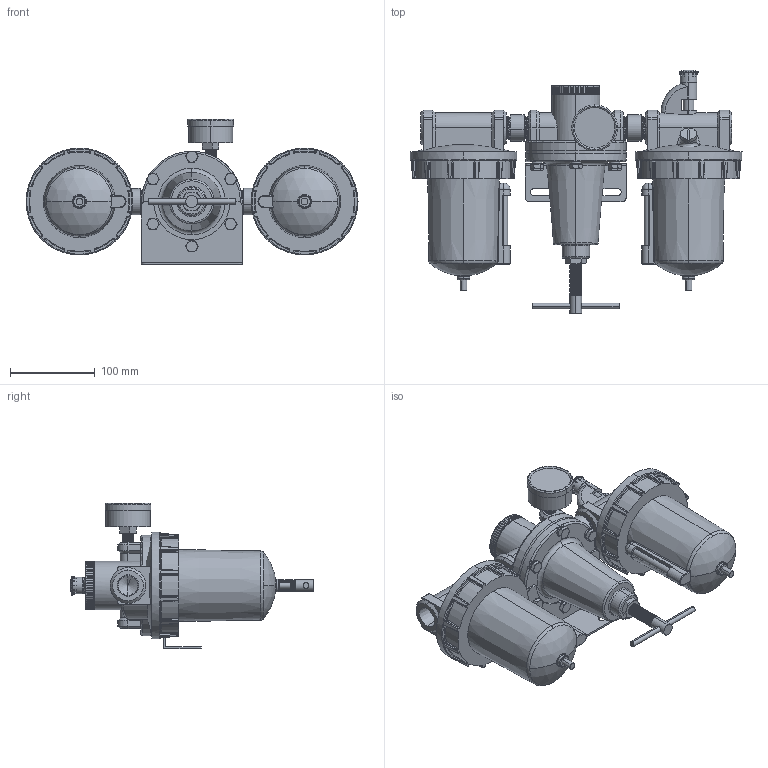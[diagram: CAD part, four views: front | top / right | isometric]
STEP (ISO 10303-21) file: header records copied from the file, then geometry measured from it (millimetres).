
FILE_DESCRIPTION (( 'STEP AP203' ), '1' );
FILE_NAME ('C628W-06#YB#.STEP', '2016-01-14T17:32:02', ( '' ), ( '' ), 'SwSTEP 2.0', 'SolidWorks 2014', '' );
FILE_SCHEMA (( 'CONFIG_CONTROL_DESIGN' ));
Length unit declared in the file: millimetre
Products named in the file (25): L606-W-06-2; R119-06-7; 3-4-圓; R119-06; 50-P-AD=1-4PT-1; L606W-06; L606-W-06-3; 50-P-AD=1-4PT.SLDPRT; L606-W-06-4; 50-P-AD=1-4PT-2; F602W-06#YB#; R119-06-4; KW18B57; ISO 4014 - M8; L606-W-06; R119-06-5; C628W-06#YB#; F602W-06; L606-W-06-5; L606-W-06-1; R119-06-3; R119-06-6; R119-06-2; R119-06-1; L606-W-06-下
Assembly tree (33 placements, depth 4):
  C628W-06#YB#
    F602W-06#YB#
      F602W-06
      L606-W-06-2
      L606-W-06-5
    R119-06
      R119-06-1
      R119-06-2
      R119-06-3
      R119-06-4
      R119-06-5
      R119-06-6
      ISO 4014 - M8  x6
      R119-06-7
      50-P-AD=1-4PT.SLDPRT
        50-P-AD=1-4PT-1
        50-P-AD=1-4PT-2
      KW18B57
    L606W-06
      L606-W-06
      L606-W-06-1
      L606-W-06-2
      L606-W-06-5
      L606-W-06-4
      L606-W-06-3  x2
      L606-W-06-下
    3-4-圓  x2
Bounding box: 391.5 x 287 x 171.5 mm (x, y, z)
Volume: 3275426.1 mm3; surface area: 385747.8 mm2
Topology: 30 solids, 30 shells, 1706 faces, 4165 edges, 2475 vertices
Faces by surface type: plane 537, cylinder 413, cone 352, bspline 242, torus 104, sphere 58
Entity records: 68175 total; most frequent: CARTESIAN_POINT 33391, ORIENTED_EDGE 7178, DIRECTION 6188, EDGE_CURVE 3589, AXIS2_PLACEMENT_3D 2562, VERTEX_POINT 2175, EDGE_LOOP 1536, ADVANCED_FACE 1483
